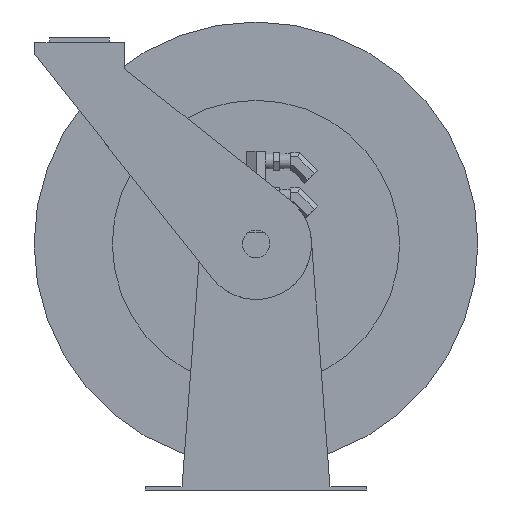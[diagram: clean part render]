
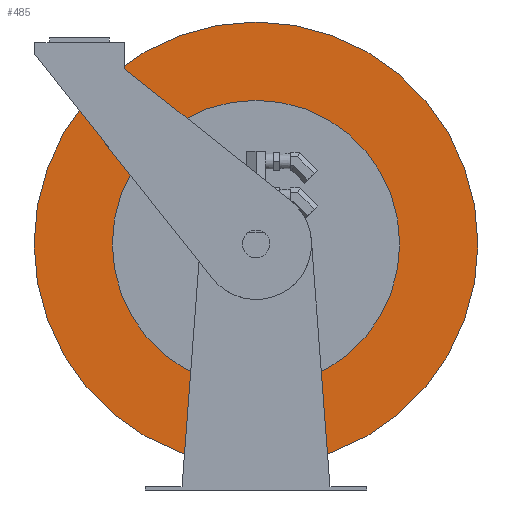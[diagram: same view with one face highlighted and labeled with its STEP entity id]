
A CAD part, front view. The second image highlights one B-rep face of the part: STEP entity #485.
In plain terms, the highlighted planar face has unit normal (0, -1, 0).
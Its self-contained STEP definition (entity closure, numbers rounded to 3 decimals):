
#485 = ADVANCED_FACE( '', ( #1043, #1044 ), #1045, .T. );
#1043 = FACE_OUTER_BOUND( '', #1610, .T. );
#1044 = FACE_BOUND( '', #1611, .T. );
#1045 = PLANE( '', #1612 );
#1610 = EDGE_LOOP( '', ( #2896 ) );
#1611 = EDGE_LOOP( '', ( #2897 ) );
#1612 = AXIS2_PLACEMENT_3D( '', #2898, #2899, #2900 );
#2896 = ORIENTED_EDGE( '', *, *, #3170, .T. );
#2897 = ORIENTED_EDGE( '', *, *, #3538, .F. );
#2898 = CARTESIAN_POINT( '', ( 0., 22.885, 642.722 ) );
#2899 = DIRECTION( '', ( 0., -1., 0. ) );
#2900 = DIRECTION( '', ( 1., 0., 0. ) );
#3170 = EDGE_CURVE( '', #3793, #3793, #3794, .T. );
#3538 = EDGE_CURVE( '', #4310, #4310, #4311, .T. );
#3793 = VERTEX_POINT( '', #4656 );
#3794 = CIRCLE( '', #4657, 304.8 );
#4310 = VERTEX_POINT( '', #5551 );
#4311 = CIRCLE( '', #5552, 197.282 );
#4656 = CARTESIAN_POINT( '', ( 304.8, 22.885, 337.922 ) );
#4657 = AXIS2_PLACEMENT_3D( '', #5725, #5726, #5727 );
#5551 = CARTESIAN_POINT( '', ( 197.282, 22.885, 337.922 ) );
#5552 = AXIS2_PLACEMENT_3D( '', #6069, #6070, #6071 );
#5725 = CARTESIAN_POINT( '', ( 0., 22.885, 337.922 ) );
#5726 = DIRECTION( '', ( 0., -1., 0. ) );
#5727 = DIRECTION( '', ( 1., 0., 0. ) );
#6069 = CARTESIAN_POINT( '', ( 0., 22.885, 337.922 ) );
#6070 = DIRECTION( '', ( 0., -1., 0. ) );
#6071 = DIRECTION( '', ( 1., 0., 0. ) );
